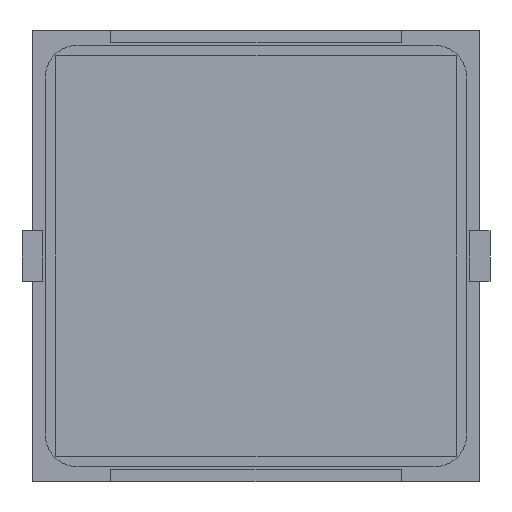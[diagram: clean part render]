
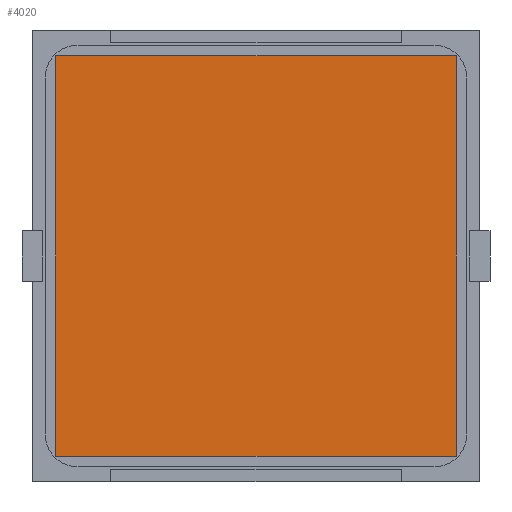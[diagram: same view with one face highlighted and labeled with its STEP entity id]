
A CAD part, front view. The second image highlights one B-rep face of the part: STEP entity #4020.
In plain terms, the highlighted planar face has unit normal (0, -1, 0).
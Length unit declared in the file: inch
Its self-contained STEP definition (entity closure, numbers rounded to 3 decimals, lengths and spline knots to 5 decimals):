
#103 = CARTESIAN_POINT ( 'NONE',  ( -0.7874, -0.005, -0.7874 ) ) ;
#533 = VECTOR ( 'NONE', #6045, 39.37008 ) ;
#942 = VERTEX_POINT ( 'NONE', #8061 ) ;
#1027 = DIRECTION ( 'NONE',  ( 0., 0., 1. ) ) ;
#1164 = VECTOR ( 'NONE', #1847, 39.37008 ) ;
#1253 = ORIENTED_EDGE ( 'NONE', *, *, #2986, .T. ) ;
#1847 = DIRECTION ( 'NONE',  ( -1., 0., 0. ) ) ;
#2986 = EDGE_CURVE ( 'NONE', #8045, #942, #5933, .T. ) ;
#3003 = CARTESIAN_POINT ( 'NONE',  ( 0.7874, -0.005, -0.7874 ) ) ;
#3031 = ORIENTED_EDGE ( 'NONE', *, *, #7344, .T. ) ;
#3261 = ORIENTED_EDGE ( 'NONE', *, *, #5345, .T. ) ;
#3929 = DIRECTION ( 'NONE',  ( 0., 0., -1. ) ) ;
#4020 = ADVANCED_FACE ( 'NONE', ( #6258 ), #5195, .T. ) ;
#4708 = LINE ( 'NONE', #10350, #1164 ) ;
#4726 = VECTOR ( 'NONE', #5317, 39.37008 ) ;
#4880 = EDGE_LOOP ( 'NONE', ( #7873, #3031, #1253, #3261 ) ) ;
#5195 = PLANE ( 'NONE',  #10511 ) ;
#5317 = DIRECTION ( 'NONE',  ( 1., 0., 0. ) ) ;
#5345 = EDGE_CURVE ( 'NONE', #942, #7785, #10082, .T. ) ;
#5374 = CARTESIAN_POINT ( 'NONE',  ( 0.7874, -0.005, 0.7874 ) ) ;
#5933 = LINE ( 'NONE', #103, #7021 ) ;
#6045 = DIRECTION ( 'NONE',  ( 0., 0., 1. ) ) ;
#6258 = FACE_OUTER_BOUND ( 'NONE', #4880, .T. ) ;
#6729 = CARTESIAN_POINT ( 'NONE',  ( 0.7874, -0.005, 0.7874 ) ) ;
#7021 = VECTOR ( 'NONE', #3929, 39.37008 ) ;
#7095 = LINE ( 'NONE', #10048, #533 ) ;
#7262 = DIRECTION ( 'NONE',  ( 0., -1., 0. ) ) ;
#7344 = EDGE_CURVE ( 'NONE', #11506, #8045, #4708, .T. ) ;
#7785 = VERTEX_POINT ( 'NONE', #3003 ) ;
#7873 = ORIENTED_EDGE ( 'NONE', *, *, #9056, .T. ) ;
#8045 = VERTEX_POINT ( 'NONE', #11144 ) ;
#8061 = CARTESIAN_POINT ( 'NONE',  ( -0.7874, -0.005, -0.7874 ) ) ;
#9056 = EDGE_CURVE ( 'NONE', #7785, #11506, #7095, .T. ) ;
#9110 = CARTESIAN_POINT ( 'NONE',  ( 0.7874, -0.005, -0.7874 ) ) ;
#10048 = CARTESIAN_POINT ( 'NONE',  ( 0.7874, -0.005, -0.7874 ) ) ;
#10082 = LINE ( 'NONE', #9110, #4726 ) ;
#10350 = CARTESIAN_POINT ( 'NONE',  ( 0.7874, -0.005, 0.7874 ) ) ;
#10511 = AXIS2_PLACEMENT_3D ( 'NONE', #5374, #7262, #1027 ) ;
#11144 = CARTESIAN_POINT ( 'NONE',  ( -0.7874, -0.005, 0.7874 ) ) ;
#11506 = VERTEX_POINT ( 'NONE', #6729 ) ;
